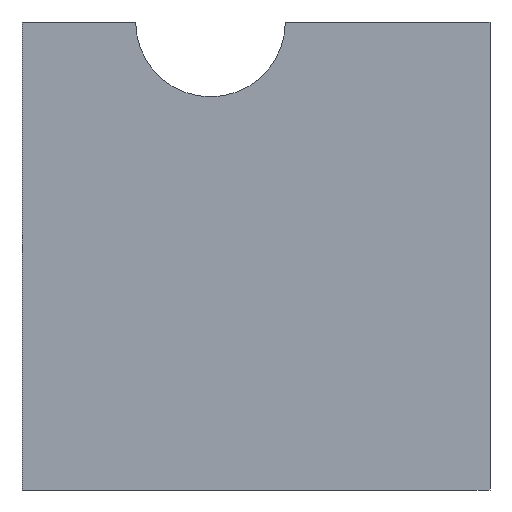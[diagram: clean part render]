
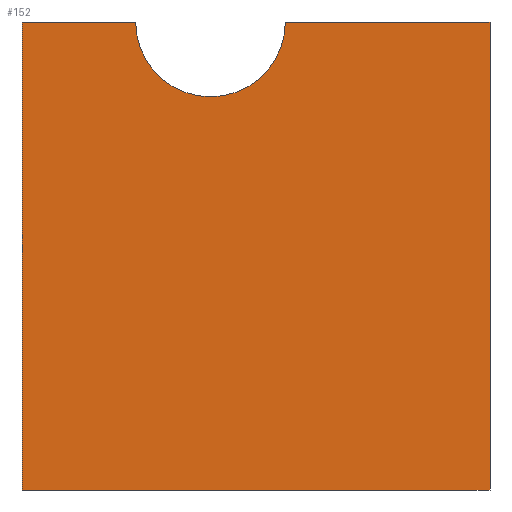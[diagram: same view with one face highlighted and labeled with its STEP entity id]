
A CAD part, left-side view. The second image highlights one B-rep face of the part: STEP entity #152.
In plain terms, the highlighted planar face has unit normal (-1, 0, 0).
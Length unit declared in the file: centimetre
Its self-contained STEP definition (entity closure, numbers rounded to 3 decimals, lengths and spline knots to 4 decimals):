
#3 = CARTESIAN_POINT ( 'NONE',  ( 0., 1000., 0. ) ) ;
#4 = VERTEX_POINT ( 'NONE', #280 ) ;
#24 = VECTOR ( 'NONE', #51, 100. ) ;
#35 = AXIS2_PLACEMENT_3D ( 'NONE', #598, #297, #135 ) ;
#51 = DIRECTION ( 'NONE',  ( 0., -1., 0. ) ) ;
#52 = VECTOR ( 'NONE', #595, 100. ) ;
#58 = VERTEX_POINT ( 'NONE', #502 ) ;
#59 = CARTESIAN_POINT ( 'NONE',  ( 0., 597.2338, 1000. ) ) ;
#73 = DIRECTION ( 'NONE',  ( 0., 0., 1. ) ) ;
#94 = VECTOR ( 'NONE', #128, 100. ) ;
#95 = LINE ( 'NONE', #3, #24 ) ;
#104 = DIRECTION ( 'NONE',  ( 0., -1., 0. ) ) ;
#124 = EDGE_CURVE ( 'NONE', #202, #364, #137, .T. ) ;
#128 = DIRECTION ( 'NONE',  ( 0., -1., 0. ) ) ;
#135 = DIRECTION ( 'NONE',  ( 0., 0., -1. ) ) ;
#137 = LINE ( 'NONE', #455, #354 ) ;
#152 = ADVANCED_FACE ( 'NONE', ( #397 ), #355, .F. ) ;
#182 = CARTESIAN_POINT ( 'NONE',  ( 0., 1000., 1000. ) ) ;
#196 = CARTESIAN_POINT ( 'NONE',  ( 0., 0., 1000. ) ) ;
#202 = VERTEX_POINT ( 'NONE', #196 ) ;
#215 = CARTESIAN_POINT ( 'NONE',  ( 0., 1000., 0. ) ) ;
#219 = CARTESIAN_POINT ( 'NONE',  ( 0., 1000., 1000. ) ) ;
#232 = CARTESIAN_POINT ( 'NONE',  ( 0., 1000., 1000. ) ) ;
#262 = VECTOR ( 'NONE', #104, 100. ) ;
#280 = CARTESIAN_POINT ( 'NONE',  ( 0., 437.3722, 1000. ) ) ;
#289 = VERTEX_POINT ( 'NONE', #219 ) ;
#291 = EDGE_CURVE ( 'NONE', #289, #534, #441, .T. ) ;
#297 = DIRECTION ( 'NONE',  ( 1., 0., 0. ) ) ;
#306 = CIRCLE ( 'NONE', #622, 159.8615 ) ;
#336 = DIRECTION ( 'NONE',  ( -1., 0., 0. ) ) ;
#354 = VECTOR ( 'NONE', #453, 100. ) ;
#355 = PLANE ( 'NONE',  #35 ) ;
#360 = ORIENTED_EDGE ( 'NONE', *, *, #291, .T. ) ;
#364 = VERTEX_POINT ( 'NONE', #389 ) ;
#389 = CARTESIAN_POINT ( 'NONE',  ( 0., 0., 0. ) ) ;
#390 = EDGE_CURVE ( 'NONE', #58, #4, #306, .T. ) ;
#392 = EDGE_LOOP ( 'NONE', ( #416, #580, #520, #360, #650, #642 ) ) ;
#397 = FACE_OUTER_BOUND ( 'NONE', #392, .T. ) ;
#416 = ORIENTED_EDGE ( 'NONE', *, *, #521, .F. ) ;
#417 = LINE ( 'NONE', #570, #262 ) ;
#441 = LINE ( 'NONE', #232, #52 ) ;
#453 = DIRECTION ( 'NONE',  ( 0., 0., -1. ) ) ;
#455 = CARTESIAN_POINT ( 'NONE',  ( 0., 0., 1000. ) ) ;
#502 = CARTESIAN_POINT ( 'NONE',  ( 0., 757.0953, 1000. ) ) ;
#520 = ORIENTED_EDGE ( 'NONE', *, *, #648, .F. ) ;
#521 = EDGE_CURVE ( 'NONE', #4, #202, #417, .T. ) ;
#522 = EDGE_CURVE ( 'NONE', #534, #364, #95, .T. ) ;
#527 = LINE ( 'NONE', #182, #94 ) ;
#534 = VERTEX_POINT ( 'NONE', #215 ) ;
#570 = CARTESIAN_POINT ( 'NONE',  ( 0., 1000., 1000. ) ) ;
#580 = ORIENTED_EDGE ( 'NONE', *, *, #390, .F. ) ;
#595 = DIRECTION ( 'NONE',  ( 0., 0., -1. ) ) ;
#598 = CARTESIAN_POINT ( 'NONE',  ( 0., 1000., 1000. ) ) ;
#622 = AXIS2_PLACEMENT_3D ( 'NONE', #59, #336, #73 ) ;
#642 = ORIENTED_EDGE ( 'NONE', *, *, #124, .F. ) ;
#648 = EDGE_CURVE ( 'NONE', #289, #58, #527, .T. ) ;
#650 = ORIENTED_EDGE ( 'NONE', *, *, #522, .T. ) ;
